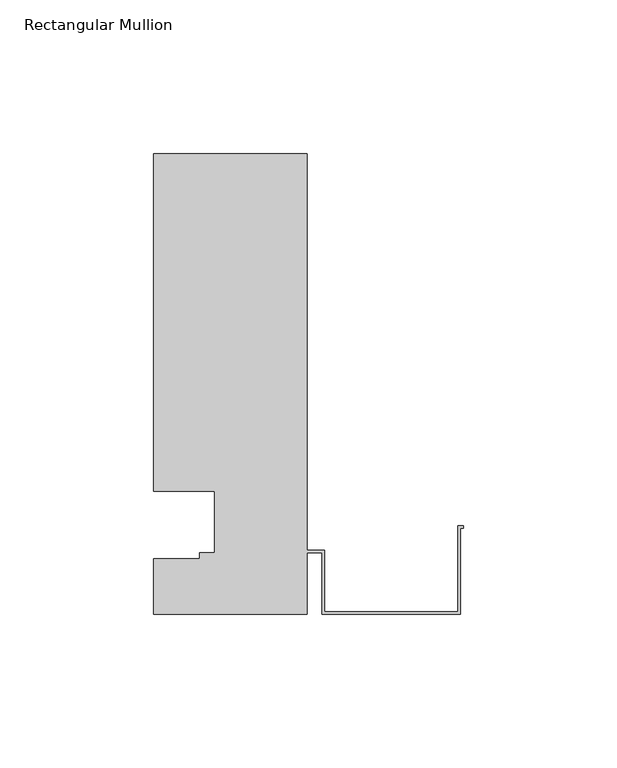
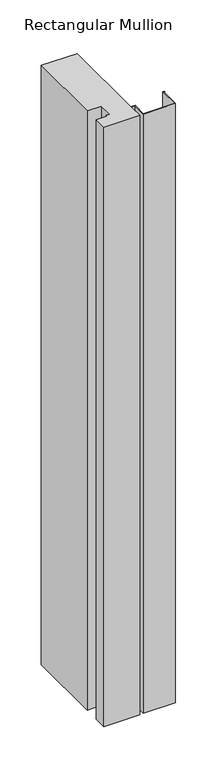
"""IFC4 building model written with IfcOpenShell, lengths in millimetres: member geometry, Rectangular Mullion : TR_CW_ALU_border_TONGUE."""

from ifc_helpers import new_model, si_unit, frame, origin, place, context, project, spatial, polyline, outline, extrude, source, transform, mapped, element, save


def rectangular_mullion_1268cc40(model_context):
    return source(origin(), model_context, "Body", "SweptSolid", [
        extrude(outline(polyline([(-101.0, 0.0), (-101.0, 18.0204111), (-86.0, 18.0204111), (-86.0, 20.0), (-81.0, 20.0), (-81.0, 40.0), (-101.0, 40.0), (-101.0, 150.0), (-51.0, 150.0), (-51.0, 20.8), (-45.2, 20.8), (-45.2, 0.8), (-1.8, 0.8), (-1.8, 28.8), (0.0, 28.8), (0.0, 28.0), (-1.0, 28.0), (-1.0, 0.0), (-46.0, 0.0), (-46.0, 20.0), (-51.0, 20.0), (-51.0, 0.0), (-101.0, 0.0)])), frame((0.0, 0.0, -882.5), z_axis=(0.0, 0.0, 1.0), x_axis=(1.0, 0.0, 0.0)), (0.0, 0.0, 1.0), 882.5),
    ])


if __name__ == "__main__":
    model = new_model("IFC4")
    model_context = context("Model", 3, world=origin())
    ifc_project = project(units=[si_unit("LENGTHUNIT", "METRE", prefix="MILLI")], contexts=[model_context])
    site = spatial("IfcSite", under=ifc_project)
    building = spatial("IfcBuilding", under=site)
    placement = place(None, origin())
    rectangular_mullion_shape = rectangular_mullion_1268cc40(model_context)
    element("IfcMember", 1, ObjectType="Rectangular Mullion : TR_CW_ALU_border_TONGUE", at=placement, inside=building, context=model_context, shape_type="MappedRepresentation", body=[
        mapped(rectangular_mullion_shape, transform((0.0, 0.0, 0.0), x_axis=(1.0, 0.0, 0.0), y_axis=(0.0, 1.0, 0.0), z_axis=(0.0, 0.0, 1.0))),
    ])
    save(model, "model.ifc")
